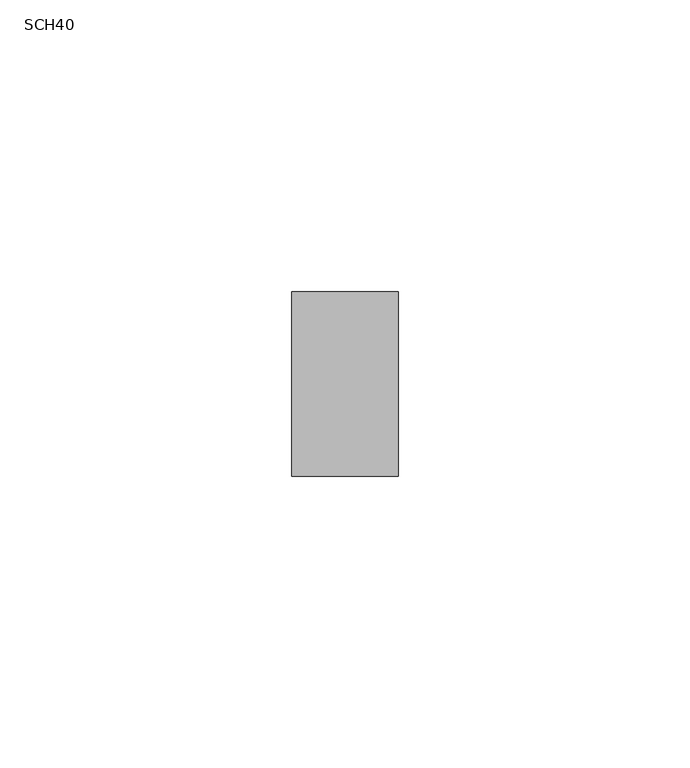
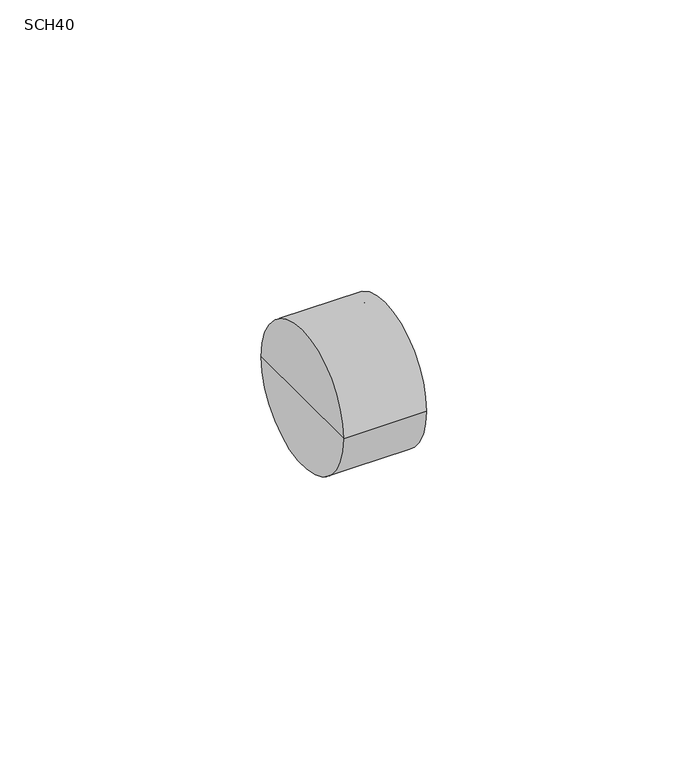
"""IFC4 building model written with IfcOpenShell, lengths in millimetres: cable carrier fitting geometry, PavcoWavin_ConduitFittings_ZnoUsarAdaptadorTerminal : SCH40."""

import ifcopenshell
import ifcopenshell.guid

model = None  # the IFC model being written
_history = None  # IfcOwnerHistory: only IFC2X3 demands one
_inside = {}  # id of a spatial element -> (the spatial element, [elements in it])
_under = {}  # id of a project, library or spatial element -> (it, [spatial elements below it])
_declared = {}  # id of a project -> (the project, [libraries it declares])
_typed = {}  # id of a type object -> (the type object, [elements of that type])
_made_of = {}  # id of a material, layer set ... -> (it, [elements and type objects made of it])


def new_model(schema):
    """Start an empty IFC model of exactly this schema.

    Asked for "IFC4X3", IfcOpenShell would pick the latest addendum, in which some entities
    have other attributes; the version numbers below select the first issue.
    IFC2X3 requires an IfcOwnerHistory on every rooted entity: one is made here for all.
    """
    global model, _history
    if schema == "IFC4X3":
        model = ifcopenshell.file(schema_version=(4, 3, 0, 0))
    else:
        model = ifcopenshell.file(schema=schema)
    _inside.clear()
    _under.clear()
    _declared.clear()
    _typed.clear()
    _made_of.clear()
    _history = None
    if model.schema == "IFC2X3":
        org = make("IfcOrganization", Name="unknown")
        user = make(
            "IfcPersonAndOrganization",
            ThePerson=make("IfcPerson", FamilyName="unknown"),
            TheOrganization=org,
        )
        app = make(
            "IfcApplication",
            ApplicationDeveloper=org,
            Version="unknown",
            ApplicationFullName="unknown",
            ApplicationIdentifier="unknown",
        )
        _history = make(
            "IfcOwnerHistory",
            OwningUser=user,
            OwningApplication=app,
            ChangeAction="ADDED",
            CreationDate=0,
        )
    return model


def make(cls, **values):
    """One entity of the class cls with the attributes given. An attribute that is None is left unset."""
    return model.create_entity(
        cls, **{name: value for name, value in values.items() if value is not None}
    )


def rooted(cls, **values):
    """An entity with a GlobalId (a new one), such as an element, a storey or a relation."""
    return make(cls, GlobalId=ifcopenshell.guid.new(), OwnerHistory=_history, **values)


def si_unit(unit_type, name, prefix=None):
    """IfcSIUnit, for example si_unit("LENGTHUNIT", "METRE", prefix="MILLI")."""
    return make("IfcSIUnit", UnitType=unit_type, Prefix=prefix, Name=name)


def assignment(units):
    """IfcUnitAssignment: the units of a project."""
    return None if units is None else make("IfcUnitAssignment", Units=units)


def point(xyz):
    """IfcCartesianPoint."""
    return None if xyz is None else make("IfcCartesianPoint", Coordinates=xyz)


def direction(xyz):
    """IfcDirection."""
    return None if xyz is None else make("IfcDirection", DirectionRatios=xyz)


def frame(location, z_axis=None, x_axis=None):
    """IfcAxis2Placement3D, a coordinate frame: its origin and axes. An axis left out is left unset."""
    return make(
        "IfcAxis2Placement3D",
        Location=point(location),
        Axis=direction(z_axis),
        RefDirection=direction(x_axis),
    )


def origin():
    """The frame at (0, 0, 0) with its axes left unset."""
    return frame((0.0, 0.0, 0.0))


def place(relative_to, where):
    """IfcLocalPlacement: puts the frame where relative to a parent placement (None: the world)."""
    return make(
        "IfcLocalPlacement", PlacementRelTo=relative_to, RelativePlacement=where
    )


def context(
    kind, dimensions, precision=None, world=None, true_north=None, identifier=None
):
    """IfcGeometricRepresentationContext, for example the 3D "Model" context."""
    return make(
        "IfcGeometricRepresentationContext",
        ContextIdentifier=identifier,
        ContextType=kind,
        CoordinateSpaceDimension=dimensions,
        Precision=precision,
        WorldCoordinateSystem=world,
        TrueNorth=true_north,
    )


def project(units=None, contexts=None):
    """IfcProject with its units and contexts."""
    return rooted(
        "IfcProject",
        Name="project",
        RepresentationContexts=contexts,
        UnitsInContext=assignment(units),
    )


def spatial(cls, under=None, at=None, **own):
    """A site, building, storey or space (cls), placed at a placement, below another one or the project."""
    s = rooted(cls, ObjectPlacement=at, **own)
    if under is not None:
        _under.setdefault(under.id(), (under, []))[1].append(s)
    return s


def polyline(points):
    """IfcPolyline through the points."""
    return make("IfcPolyline", Points=[point(p) for p in points])


def circle_curve(where, radius):
    """IfcCircle in the frame where."""
    return make("IfcCircle", Position=where, Radius=radius)


def shape(context_of_items, identifier, shape_type, items):
    """IfcShapeRepresentation: the items that make up one representation, for example the "Body"."""
    return make(
        "IfcShapeRepresentation",
        ContextOfItems=context_of_items,
        RepresentationIdentifier=identifier,
        RepresentationType=shape_type,
        Items=items,
    )


def source(mapping_origin, context_of_items, identifier, shape_type, items):
    """IfcRepresentationMap: a shape defined once, which mapped items show again and again."""
    return make(
        "IfcRepresentationMap",
        MappingOrigin=mapping_origin,
        MappedRepresentation=shape(context_of_items, identifier, shape_type, items),
    )


def transform(
    local_origin,
    x_axis=None,
    y_axis=None,
    z_axis=None,
    scale=None,
    scale2=None,
    scale3=None,
    uniform=True,
):
    """IfcCartesianTransformationOperator3D, or its non-uniform kind. x_axis, y_axis, z_axis: its Axis1, 2, 3."""
    if uniform:
        return make(
            "IfcCartesianTransformationOperator3D",
            Axis1=direction(x_axis),
            Axis2=direction(y_axis),
            LocalOrigin=point(local_origin),
            Scale=scale,
            Axis3=direction(z_axis),
        )
    return make(
        "IfcCartesianTransformationOperator3DnonUniform",
        Axis1=direction(x_axis),
        Axis2=direction(y_axis),
        LocalOrigin=point(local_origin),
        Scale=scale,
        Axis3=direction(z_axis),
        Scale2=scale2,
        Scale3=scale3,
    )


def mapped(mapping_source, mapping_target):
    """IfcMappedItem: shows the shape of a source again, moved by a transform."""
    return make(
        "IfcMappedItem", MappingSource=mapping_source, MappingTarget=mapping_target
    )


def made_of(thing, what):
    """Note that an element or type object is made of a material, layer set ...; save() writes the relation."""
    if what is not None:
        _made_of.setdefault(what.id(), (what, []))[1].append(thing)
    return thing


def element(
    cls,
    number,
    at=None,
    inside=None,
    cuts=None,
    type_object=None,
    material=None,
    context=None,
    identifier="Body",
    shape_type=None,
    held_by="IfcProductDefinitionShape",
    body=None,
    shapes=None,
    **own,
):
    """One element of the class cls, such as IfcWall. Its Tag is "e" and its number.

    at: its placement. inside: the storey or other place that contains it. cuts: it is an
    opening in that element (IfcRelVoidsElement). A single representation is given by context,
    identifier, shape_type and body (its items); several are given by shapes. held_by: the class
    of the entity that holds the representations. save() writes the other relations.
    """
    e = rooted(cls, Tag="e%d" % number, ObjectPlacement=at, **own)
    if body is not None:
        shapes = [shape(context, identifier, shape_type, body)]
    if shapes is not None:
        e.Representation = make(held_by, Representations=shapes)
    if inside is not None:
        _inside.setdefault(inside.id(), (inside, []))[1].append(e)
    if cuts is not None:
        rooted(
            "IfcRelVoidsElement", RelatingBuildingElement=cuts, RelatedOpeningElement=e
        )
    if type_object is not None:
        _typed.setdefault(type_object.id(), (type_object, []))[1].append(e)
    return made_of(e, material)


def aggregate(whole, parts):
    """IfcRelAggregates: a whole, such as a stair, and the parts it consists of."""
    return rooted("IfcRelAggregates", RelatingObject=whole, RelatedObjects=parts)


def save(model, path):
    """Write the relations noted so far, then the file.

    IfcRelAggregates (storeys below a building ...), IfcRelContainedInSpatialStructure (elements
    in a storey), IfcRelDefinesByType, IfcRelAssociatesMaterial and IfcRelDeclares: one each for
    every whole, place, type object, material and project.
    """
    for whole, parts in _under.values():
        aggregate(whole, parts)
    for where, things in _inside.values():
        rooted(
            "IfcRelContainedInSpatialStructure",
            RelatedElements=things,
            RelatingStructure=where,
        )
    for kind, things in _typed.values():
        rooted("IfcRelDefinesByType", RelatedObjects=things, RelatingType=kind)
    for what, things in _made_of.values():
        rooted("IfcRelAssociatesMaterial", RelatedObjects=things, RelatingMaterial=what)
    for by, libraries in _declared.values():
        rooted("IfcRelDeclares", RelatingContext=by, RelatedDefinitions=libraries)
    model.write(path)


def plane_surface(at):
    """IfcPlane: the flat surface through the origin of the frame at, square to its z axis."""
    return make("IfcPlane", Position=at)


def cylinder_surface(at, radius):
    """IfcCylindricalSurface: all points at the distance radius from the z axis of the frame at."""
    return make("IfcCylindricalSurface", Position=at, Radius=radius)


def revolved_surface(curve, axis_point, axis_direction):
    """IfcSurfaceOfRevolution: the curve turned about the line through axis_point along axis_direction."""
    return make(
        "IfcSurfaceOfRevolution",
        SweptCurve=make("IfcArbitraryOpenProfileDef", ProfileType="CURVE", Curve=curve),
        AxisPosition=make("IfcAxis1Placement", Location=point(axis_point), Axis=direction(axis_direction)),
    )


def advanced_brep(points, edges, surfaces, faces):
    """IfcAdvancedBrep: a solid bounded by faces that lie on surfaces and meet in shared edges.

    An edge is (start, end): straight between two places in points (the first is 0);
    or (start, end, curve); or (start, end, curve, False) where it runs against its curve.
    A face is (place in surfaces, loops), or (place, loops, False) where it looks against
    its surface's normal. A loop lists edges by number (the first is 1), with a minus sign
    where the edge is run from its end to its start. The first loop is the outer one.
    """
    corners = [point(p) for p in points]
    vertices = [make("IfcVertexPoint", VertexGeometry=c) for c in corners]
    made = []
    for start, end, *more in edges:
        made.append(
            make(
                "IfcEdgeCurve",
                EdgeStart=vertices[start],
                EdgeEnd=vertices[end],
                EdgeGeometry=more[0] if more else make("IfcPolyline", Points=[corners[start], corners[end]]),
                SameSense=more[1] if len(more) > 1 else True,
            )
        )
    hull = []
    for where, loops, *sense in faces:
        bounds = []
        for j, loop in enumerate(loops):
            ring = [make("IfcOrientedEdge", EdgeElement=made[abs(k) - 1], Orientation=k > 0) for k in loop]
            bounds.append(
                make(
                    "IfcFaceOuterBound" if j == 0 else "IfcFaceBound",
                    Bound=make("IfcEdgeLoop", EdgeList=ring),
                    Orientation=True,
                )
            )
        hull.append(make("IfcAdvancedFace", Bounds=bounds, FaceSurface=surfaces[where], SameSense=sense[0] if sense else True))
    return make("IfcAdvancedBrep", Outer=make("IfcClosedShell", CfsFaces=hull))


def sch40_1c53443b(model_context):
    return source(origin(), model_context, "Body", "AdvancedBrep", [
        advanced_brep(
        [(18.26, -15.85, 0.0), (18.26, 15.85, 0.0), (18.26, 13.5, 0.0), (18.26, -13.5, 0.0), (0.0, -15.85, 0.0), (0.0, 15.85, 0.0), (0.0, 0.0, 0.0), (2.5, -13.5, 0.0), (2.5, 13.5, 0.0), (2.5, 0.0, 0.0)],
        [
            (0, 1, circle_curve(frame((18.26, 0.0, 0.0), z_axis=(1.0, 0.0, 0.0), x_axis=(0.0, 1.0, 0.0)), 15.85)),
            (1, 2),
            (2, 3, circle_curve(frame((18.26, 0.0, 0.0), z_axis=(-1.0, 0.0, 0.0), x_axis=(0.0, 1.0, 0.0)), 13.5)),
            (3, 0),
            (1, 0, circle_curve(frame((18.26, 0.0, 0.0), z_axis=(1.0, 0.0, 0.0), x_axis=(0.0, 1.0, 0.0)), 15.85)),
            (3, 2, circle_curve(frame((18.26, 0.0, 0.0), z_axis=(-1.0, 0.0, 0.0), x_axis=(0.0, 1.0, 0.0)), 13.5)),
            (4, 5, circle_curve(frame((0.0, 0.0, 0.0), z_axis=(1.0, 0.0, 0.0), x_axis=(0.0, 1.0, 0.0)), 15.85)),
            (5, 1),
            (0, 4),
            (5, 4, circle_curve(frame((0.0, 0.0, 0.0), z_axis=(1.0, 0.0, 0.0), x_axis=(0.0, 1.0, 0.0)), 15.85)),
            (6, 5),
            (4, 6),
            (7, 8, circle_curve(frame((2.5, 0.0, 0.0), z_axis=(1.0, 0.0, 0.0), x_axis=(0.0, 1.0, 0.0)), 13.5)),
            (8, 9),
            (9, 7),
            (8, 7, circle_curve(frame((2.5, 0.0, 0.0), z_axis=(1.0, 0.0, 0.0), x_axis=(0.0, 1.0, 0.0)), 13.5)),
            (2, 8),
            (7, 3),
        ],
        [
            plane_surface(frame((18.26, 0.0, 0.0), z_axis=(1.0, 0.0, 0.0), x_axis=(0.0, 1.0, 0.0))),
            cylinder_surface(frame((2002.03, 0.0, 0.0), z_axis=(-1.0, 0.0, 0.0), x_axis=(0.0, 1.0, 0.0)), 15.85),
            plane_surface(frame((0.0, 0.0, 0.0), z_axis=(-1.0, 0.0, 0.0), x_axis=(0.0, 1.0, 0.0))),
            plane_surface(frame((2.5, 0.0, 0.0), z_axis=(1.0, 0.0, 0.0), x_axis=(0.0, 1.0, 0.0))),
            revolved_surface(polyline([(2.5, 13.5, 0.0), (18.25999999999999, 13.5, 0.0)]), (2002.03, 0.0, 0.0), (-1.0, 0.0, 0.0)),
        ],
        [
            (0, [[1, 2, 3, 4]]),
            (0, [[5, -4, 6, -2]]),
            (1, [[7, 8, -1, 9]]),
            (1, [[10, -9, -5, -8]]),
            (2, [[11, -7, 12]]),
            (2, [[-12, -10, -11]]),
            (3, [[13, 14, 15]]),
            (3, [[16, -15, -14]]),
            (4, [[-3, 17, -13, 18]]),
            (4, [[-6, -18, -16, -17]]),
        ],
    ),
    ])


if __name__ == "__main__":
    model = new_model("IFC4")
    model_context = context("Model", 3, world=origin())
    ifc_project = project(units=[si_unit("LENGTHUNIT", "METRE", prefix="MILLI")], contexts=[model_context])
    site = spatial("IfcSite", under=ifc_project)
    building = spatial("IfcBuilding", under=site)
    placement = place(None, origin())
    sch40_shape = sch40_1c53443b(model_context)
    element("IfcCableCarrierFitting", 1, ObjectType="PavcoWavin_ConduitFittings_ZnoUsarAdaptadorTerminal : SCH40", at=placement, inside=building, context=model_context, shape_type="MappedRepresentation", body=[
        mapped(sch40_shape, transform((0.0, 0.0, 0.0), x_axis=(1.0, 0.0, 0.0), y_axis=(0.0, 1.0, 0.0), z_axis=(0.0, 0.0, 1.0))),
    ])
    save(model, "model.ifc")
